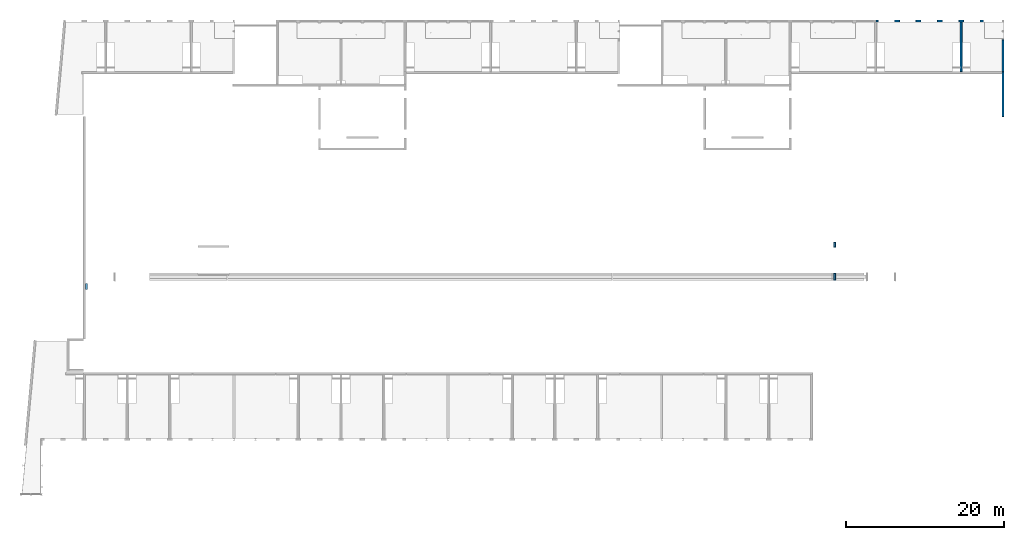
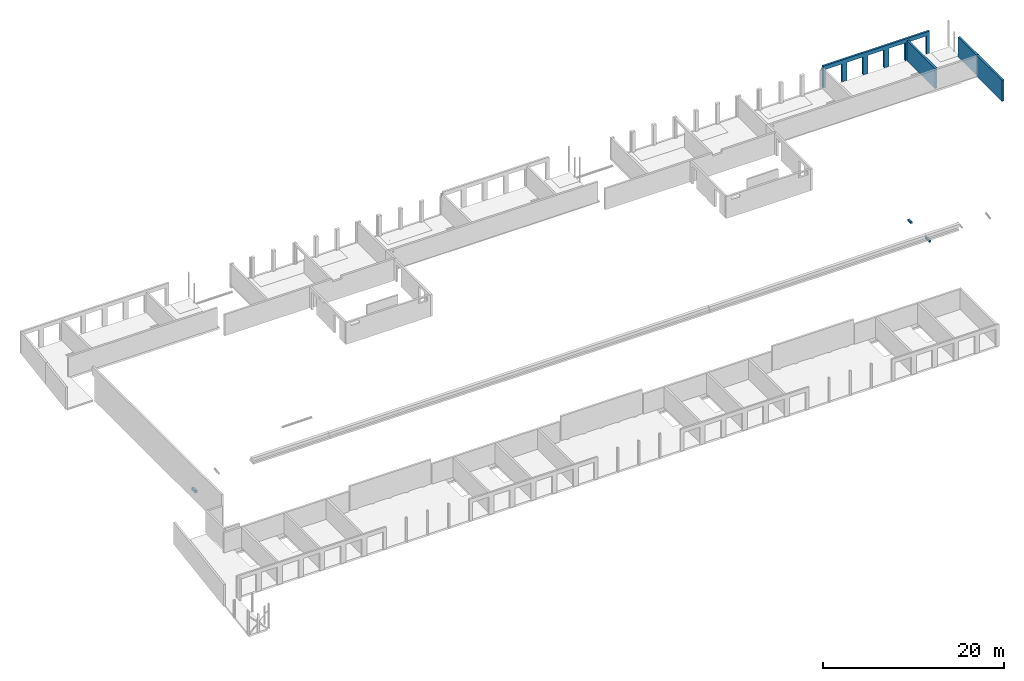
# One storey, part 19 of 22: 7 walls, 5 openings.
"""IFC2X3 building model written with IfcOpenShell, lengths in millimetres."""

from ifc_helpers import new_model, entity, si_unit, converted_unit, derived_unit, direction, frame, frame_2d, origin, origin_2d_with_axis, place, context, subcontext, project, spatial, rectangle, extrude, clip, halfspace, material, layer, layer_set, layer_usage, type_object, element, save


model = new_model("IFC2X3")

# Units and contexts
model_context = context("Model", 3, precision=0.01, world=origin(), true_north=direction((6.12303176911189e-17, 1.0)))
body_context = subcontext(model_context, "Body", "Model", "MODEL_VIEW")
ifc_project = project(units=[si_unit("LENGTHUNIT", "METRE", prefix="MILLI"), si_unit("AREAUNIT", "SQUARE_METRE"), si_unit("VOLUMEUNIT", "CUBIC_METRE"), converted_unit("PLANEANGLEUNIT", "DEGREE", entity("IfcRatioMeasure", 0.0174532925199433), si_unit("PLANEANGLEUNIT", "RADIAN"), dimensions=[0, 0, 0, 0, 0, 0, 0]), si_unit("MASSUNIT", "GRAM", prefix="KILO"), derived_unit("MASSDENSITYUNIT", [(si_unit("MASSUNIT", "GRAM", prefix="KILO"), 1), (si_unit("LENGTHUNIT", "METRE"), -3)]), si_unit("TIMEUNIT", "SECOND"), si_unit("FREQUENCYUNIT", "HERTZ"), si_unit("THERMODYNAMICTEMPERATUREUNIT", "DEGREE_CELSIUS"), derived_unit("THERMALTRANSMITTANCEUNIT", [(si_unit("MASSUNIT", "GRAM", prefix="KILO"), 1), (si_unit("THERMODYNAMICTEMPERATUREUNIT", "KELVIN"), -1), (si_unit("TIMEUNIT", "SECOND"), -3)]), derived_unit("VOLUMETRICFLOWRATEUNIT", [(si_unit("LENGTHUNIT", "METRE"), 3), (si_unit("TIMEUNIT", "SECOND"), -1)]), si_unit("ELECTRICCURRENTUNIT", "AMPERE"), si_unit("ELECTRICVOLTAGEUNIT", "VOLT"), si_unit("POWERUNIT", "WATT"), si_unit("FORCEUNIT", "NEWTON", prefix="KILO"), si_unit("ILLUMINANCEUNIT", "LUX"), si_unit("LUMINOUSFLUXUNIT", "LUMEN"), si_unit("LUMINOUSINTENSITYUNIT", "CANDELA"), derived_unit("USERDEFINED", [(si_unit("MASSUNIT", "GRAM", prefix="KILO"), -1), (si_unit("LENGTHUNIT", "METRE"), -2), (si_unit("TIMEUNIT", "SECOND"), 3), (si_unit("LUMINOUSFLUXUNIT", "LUMEN"), 1)]), derived_unit("LINEARVELOCITYUNIT", [(si_unit("LENGTHUNIT", "METRE"), 1), (si_unit("TIMEUNIT", "SECOND"), -1)]), si_unit("PRESSUREUNIT", "PASCAL"), derived_unit("USERDEFINED", [(si_unit("LENGTHUNIT", "METRE"), -2), (si_unit("MASSUNIT", "GRAM", prefix="KILO"), 1), (si_unit("TIMEUNIT", "SECOND"), -2)])], contexts=[model_context])

# Site, building, storey
site_placement = place(None, origin())
site = spatial("IfcSite", under=ifc_project, at=site_placement, Name="Default", CompositionType="ELEMENT")
building_placement = place(site_placement, origin())
building = spatial("IfcBuilding", under=site, at=building_placement, Name="niet gebruiken", CompositionType="ELEMENT")
storey_placement = place(building_placement, frame((0.0, 0.0, 9630.0)))
storey = spatial("IfcBuildingStorey", under=building, at=storey_placement, Name="03 derde verdieping", CompositionType="ELEMENT", Elevation=9630.00000000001)

# Walls
ifc_material_1 = material(Name="NLRS_f2_beton ihwg")
ifc_layer_1 = layer(ifc_material_1, 250.0)
ifc_layer_set_1 = layer_set([ifc_layer_1], Name="Basic Wall:NLRS_22.21_WA_beton ihwg d=250_gen")
ifc_layer_usage_1 = layer_usage(ifc_layer_set_1, "AXIS2", "NEGATIVE", 125.0)
wall_type_1 = type_object("IfcWallType", Name="Basic Wall:NLRS_22.21_WA_beton ihwg d=250_gen", PredefinedType="STANDARD", material=ifc_layer_set_1)
wall_1_placement = place(storey_placement, frame((118800.0, 46746.0, -90.0), z_axis=(0.0, 0.0, 1.0), x_axis=(0.0, 1.0, 0.0)))
element("IfcWallStandardCase", 1, at=wall_1_placement, inside=storey, type_object=wall_type_1, material=ifc_layer_usage_1, Name="Basic Wall:NLRS_22.21_WA_beton ihwg d=250_gen", ObjectType="Basic Wall:NLRS_22.21_WA_beton ihwg d=250_gen", context=body_context, shape_type="SweptSolid", body=[
    extrude(rectangle(XDim=6239.99999999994, YDim=250.000000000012, at=frame_2d((3119.99999999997, -3.26849658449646e-12), x_axis=(-1.0, 0.0))), origin(), (0.0, 0.0, 1.0), 2720.0),
])
ifc_layer_usage_2 = layer_usage(ifc_layer_set_1, "AXIS2", "NEGATIVE", 125.0)
wall_2_placement = place(storey_placement, frame((124075.0, 46746.0, -220.0), z_axis=(0.0, 0.0, 1.0), x_axis=(0.0, -1.0, 0.0)))
element("IfcWallStandardCase", 2, at=wall_2_placement, inside=storey, type_object=wall_type_1, material=ifc_layer_usage_2, Name="Basic Wall:NLRS_22.21_WA_beton ihwg d=250_gen", ObjectType="Basic Wall:NLRS_22.21_WA_beton ihwg d=250_gen", context=body_context, shape_type="SweptSolid", body=[
    extrude(rectangle(XDim=5685.00000000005, YDim=250.000000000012, at=frame_2d((2842.50000000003, 0.0), x_axis=(-1.0, 0.0))), origin(), (0.0, 0.0, 1.0), 2849.99999999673),
])
ifc_layer_usage_3 = layer_usage(ifc_layer_set_1, "AXIS2", "NEGATIVE", 125.0)
wall_3_placement = place(storey_placement, frame((124075.0, 50756.0, -90.0), z_axis=(0.0, 0.0, 1.0), x_axis=(0.0, -1.0, 0.0)))
element("IfcWallStandardCase", 3, at=wall_3_placement, inside=storey, type_object=wall_type_1, material=ifc_layer_usage_3, Name="Basic Wall:NLRS_22.21_WA_beton ihwg d=250_gen", ObjectType="Basic Wall:NLRS_22.21_WA_beton ihwg d=250_gen", context=body_context, shape_type="Clipping", body=[
    clip(extrude(rectangle(XDim=4010.00000000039, YDim=250.000000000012, at=frame_2d((2005.00000000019, -3.11217718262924e-12), x_axis=(-1.0, 0.0))), origin(), (0.0, 0.0, 1.0), 2719.99999999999), halfspace(frame((0.0, -125.0, 2720.0), z_axis=(0.0, 0.0, 1.0), x_axis=(0.0, 1.0, 0.0)), False)),
])

# Wall, openings
ifc_material_2 = material(Name="NLRS_f2_beton prefab")
ifc_layer_2 = layer(ifc_material_2, 250.0)
ifc_layer_set_2 = layer_set([ifc_layer_2], Name="Basic Wall:NLRS_21.21_WA_beton prefab d=250_gen")
ifc_layer_usage_4 = layer_usage(ifc_layer_set_2, "AXIS2", "NEGATIVE", 125.0)
wall_type_2 = type_object("IfcWallType", Name="Basic Wall:NLRS_21.21_WA_beton prefab d=250_gen", PredefinedType="STANDARD", material=ifc_layer_set_2)
wall_4_placement = place(storey_placement, frame((108010.0, 53131.0, -70.0)))
wall_4 = element("IfcWallStandardCase", 4, at=wall_4_placement, inside=storey, type_object=wall_type_2, material=ifc_layer_usage_4, Name="Basic Wall:NLRS_21.21_WA_beton prefab d=250_gen", ObjectType="Basic Wall:NLRS_21.21_WA_beton prefab d=250_gen", context=body_context, shape_type="SweptSolid", body=[
    extrude(rectangle(XDim=13590.0000000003, YDim=249.999999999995, at=frame_2d((6795.00000000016, 4.00035560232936e-12), x_axis=(-1.0, 0.0))), origin(), (0.0, 0.0, 1.0), 2950.00000000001),
])
opening_1_placement = place(wall_4_placement, origin())
element("IfcOpeningElement", 5, at=opening_1_placement, cuts=wall_4, Name="Basic Wall:NLRS_21.21_WA_beton prefab d=250_gen", ObjectType="Opening", context=body_context, shape_type="SweptSolid", body=[
    extrude(rectangle(XDim=2440.0, YDim=2080.0, at=frame_2d((5.6843418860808e-13, 8.64019966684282e-12), x_axis=(1.0, 0.0))), frame((12140.0, -1649.0, 1200.0), z_axis=(0.0, 1.0, 0.0), x_axis=(0.0, 0.0, 1.0)), (0.0, 0.0, 1.0), 3048.0),
])
opening_2_placement = place(wall_4_placement, origin())
element("IfcOpeningElement", 6, at=opening_2_placement, cuts=wall_4, Name="Basic Wall:NLRS_21.21_WA_beton prefab d=250_gen", ObjectType="Opening", context=body_context, shape_type="SweptSolid", body=[
    extrude(rectangle(XDim=2440.0, YDim=2080.0, at=frame_2d((5.6843418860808e-13, -8.64019966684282e-12), x_axis=(1.0, 0.0))), frame((9440.0, -1649.0, 1200.0), z_axis=(0.0, 1.0, 0.0), x_axis=(0.0, 0.0, 1.0)), (0.0, 0.0, 1.0), 3048.0),
])
opening_3_placement = place(wall_4_placement, origin())
element("IfcOpeningElement", 7, at=opening_3_placement, cuts=wall_4, Name="Basic Wall:NLRS_21.21_WA_beton prefab d=250_gen", ObjectType="Opening", context=body_context, shape_type="SweptSolid", body=[
    extrude(rectangle(XDim=2440.0, YDim=2080.0, at=frame_2d((5.6843418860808e-13, 8.64019966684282e-12), x_axis=(1.0, 0.0))), frame((6740.0, -1649.0, 1200.0), z_axis=(0.0, 1.0, 0.0), x_axis=(0.0, 0.0, 1.0)), (0.0, 0.0, 1.0), 3048.0),
])
opening_4_placement = place(wall_4_placement, origin())
element("IfcOpeningElement", 8, at=opening_4_placement, cuts=wall_4, Name="Basic Wall:NLRS_21.21_WA_beton prefab d=250_gen", ObjectType="Opening", context=body_context, shape_type="SweptSolid", body=[
    extrude(rectangle(XDim=2440.0, YDim=2080.0, at=frame_2d((5.6843418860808e-13, 8.64019966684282e-12), x_axis=(1.0, 0.0))), frame((4040.0, -1649.0, 1200.0), z_axis=(0.0, 1.0, 0.0), x_axis=(0.0, 0.0, 1.0)), (0.0, 0.0, 1.0), 3048.0),
])
opening_5_placement = place(wall_4_placement, origin())
element("IfcOpeningElement", 9, at=opening_5_placement, cuts=wall_4, Name="Basic Wall:NLRS_21.21_WA_beton prefab d=250_gen", ObjectType="Opening", context=body_context, shape_type="SweptSolid", body=[
    extrude(rectangle(XDim=2440.0, YDim=2080.0, at=frame_2d((5.6843418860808e-13, 8.64019966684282e-12), x_axis=(1.0, 0.0))), frame((1340.0, -1649.0, 1200.0), z_axis=(0.0, 1.0, 0.0), x_axis=(0.0, 0.0, 1.0)), (0.0, 0.0, 1.0), 3048.0),
])

# Walls
wall_type_3 = type_object("IfcWallType", Name="NLRS_21.21_SF_WPB_oplegnok prefabbeton_gen:300x350", PredefinedType="NOTDEFINED", material=ifc_material_2)
wall_5_placement = place(storey_placement, frame((8225.0, 19241.0, 590.0), z_axis=(0.0, 0.0, 1.0), x_axis=(0.0, 1.0, 0.0)))
element("IfcWall", 10, at=wall_5_placement, inside=storey, type_object=wall_type_3, material=ifc_material_2, Name="NLRS_21.21_SF_WPB_oplegnok prefabbeton_gen:300x350", ObjectType="NLRS_21.21_SF_WPB_oplegnok prefabbeton_gen:300x350", context=body_context, shape_type="SweptSolid", body=[
    extrude(rectangle(XDim=769.99999976, YDim=300.0, at=origin_2d_with_axis()), frame((385.0, -150.0, 0.0)), (0.0, 0.0, 1.0), 350.000000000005),
])
wall_type_4 = type_object("IfcWallType", Name="NLRS_21.21_SF_WPB_oplegnok prefabbeton_gen:220x250", PredefinedType="NOTDEFINED", material=ifc_material_2)
wall_6_placement = place(storey_placement, frame((102725.0, 20396.0, 690.0), z_axis=(0.0, 0.0, 1.0), x_axis=(0.0, 1.0, 0.0)))
element("IfcWall", 11, at=wall_6_placement, inside=storey, type_object=wall_type_4, material=ifc_material_2, Name="NLRS_21.21_SF_WPB_oplegnok prefabbeton_gen:220x250", ObjectType="NLRS_21.21_SF_WPB_oplegnok prefabbeton_gen:220x250", context=body_context, shape_type="SweptSolid", body=[
    extrude(rectangle(XDim=900.000000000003, YDim=220.000000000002, at=origin_2d_with_axis()), frame((450.0, -110.0, 0.0)), (0.0, 0.0, 1.0), 250.000000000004),
])
wall_7_placement = place(storey_placement, frame((102725.0, 24551.0, 690.0), z_axis=(0.0, 0.0, 1.0), x_axis=(0.0, 1.0, 0.0)))
element("IfcWall", 12, at=wall_7_placement, inside=storey, type_object=wall_type_4, material=ifc_material_2, Name="NLRS_21.21_SF_WPB_oplegnok prefabbeton_gen:220x250", ObjectType="NLRS_21.21_SF_WPB_oplegnok prefabbeton_gen:220x250", context=body_context, shape_type="SweptSolid", body=[
    extrude(rectangle(XDim=650.0, YDim=220.000000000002, at=origin_2d_with_axis()), frame((325.0, -110.0, 0.0)), (0.0, 0.0, 1.0), 250.000000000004),
])

save(model, "model.ifc")
